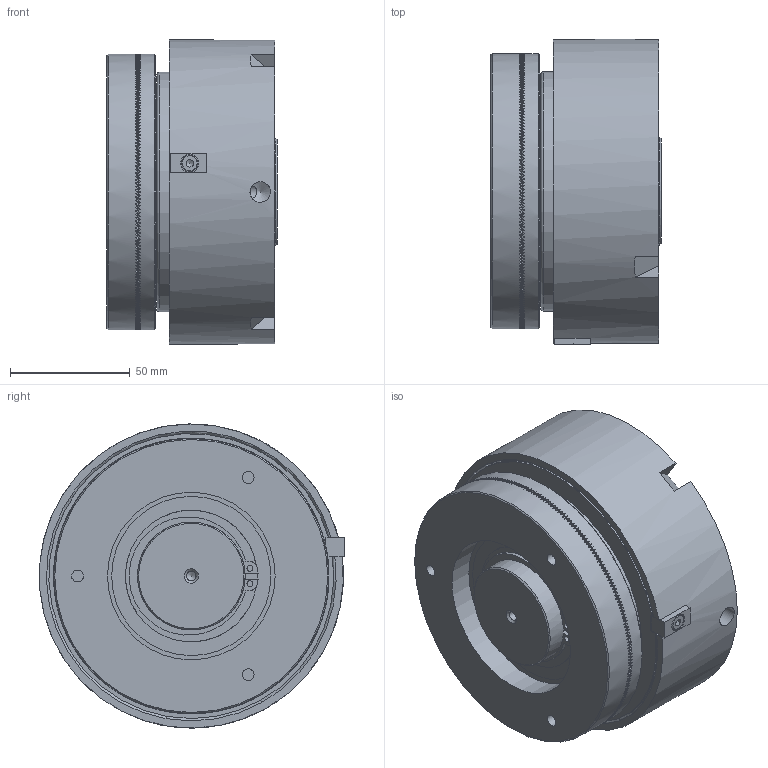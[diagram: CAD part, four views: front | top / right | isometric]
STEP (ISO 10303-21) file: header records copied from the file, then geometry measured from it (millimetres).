
FILE_DESCRIPTION(/* description */ (''),/* implementation_level */ '2;1');
FILE_NAME(/* name */ 'T:\INVENTOR\DISEGNI\03_Friz_Oleod_Pneum_Cil_Stat\03_25 DP\03_25_02_01 DP-02\03_25_02_01 DP-02@STEP.stp',/* time_stamp */ '2020-03-11T12:48:00+01:00',/* author */ ('w.sartori'),/* organization */ (''),/* preprocessor_version */ 'ST-DEVELOPER v16.13',/* originating_system */ 'Autodesk Inventor 2018',/* authorisation */ '');
FILE_SCHEMA (('AUTOMOTIVE_DESIGN { 1 0 10303 214 3 1 1 }'));
Products named in the file (1): 03_25_02_01 DP-02
Bounding box: 71 x 127.6 x 126.98 mm (x, y, z)
Volume: 632897.7 mm3; surface area: 174307.8 mm2
Topology: 2 solids, 14 shells, 2867 faces, 9098 edges, 6041 vertices
Faces by surface type: plane 2141, cylinder 481, torus 196, sphere 22, cone 21, bspline 6
Full cylindrical faces by diameter (mm): 2.5 x4, 3.242 x1, 4 x3, 4.5 x1, 4.917 x3, 5.25 x6, 6 x1, 7 x1, 7.5 x1, 8.566 x1, 42.5 x2, 44.5 x2, 45 x6, 54.6 x2, 55 x1, 65 x2, 65.4 x2, 66.5 x1, 67 x1, 70 x1, 74 x1, 75 x3, 76 x1, 76.2 x2, 79 x1, 80 x2, 83 x1, 88 x1, 88.8 x2, 100 x2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
Entity records: 114181 total; most frequent: CARTESIAN_POINT 26682, DIRECTION 19871, ORIENTED_EDGE 17774, EDGE_CURVE 8885, AXIS2_PLACEMENT_3D 8552, VERTEX_POINT 5955, ELLIPSE 3227, EDGE_LOOP 3054
